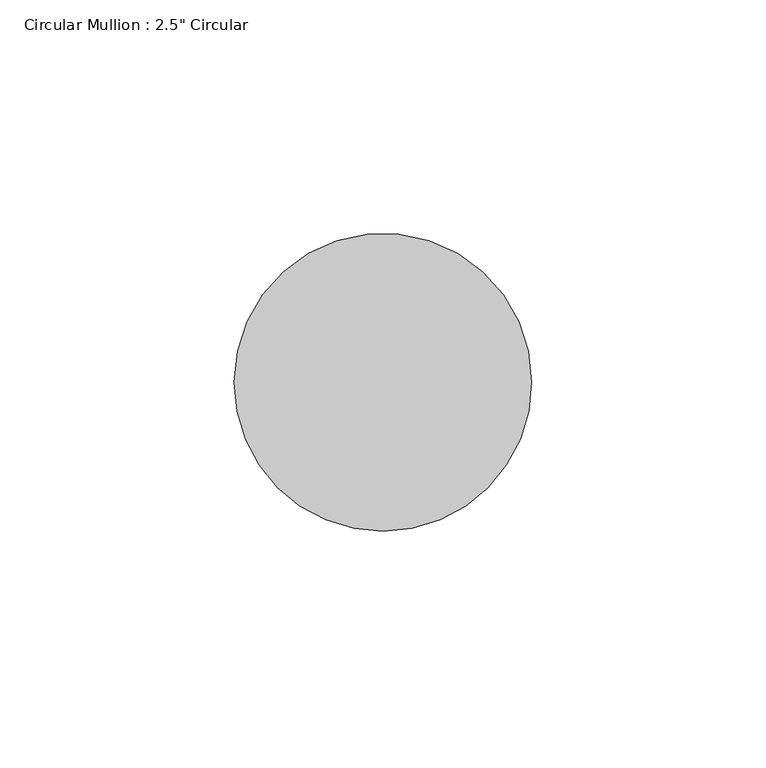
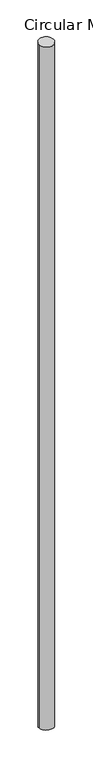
"""IFC4 building model written with IfcOpenShell, lengths in millimetres: member geometry."""

from ifc_helpers import new_model, si_unit, frame, origin, place, context, project, spatial, ellipse_curve, source, transform, mapped, element, save
from ifc_brep_helpers import plane_surface, cylinder_surface, advanced_brep


def member_529cba33(model_context):
    return source(origin(), model_context, "Body", "AdvancedBrep", [
        advanced_brep(
        [(-63.5, 0.0, -1.7863145), (0.0, 0.0, 0.0), (0.0, 0.0, -3120.2233379), (-63.5, 0.0, -3118.0742862)],
        [
            (0, 1, ellipse_curve(frame((-31.75, 0.0, -0.8931573), z_axis=(0.028045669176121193, 0.07257040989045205, -0.9969688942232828), x_axis=(0.35938605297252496, 0.9299401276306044, 0.0778011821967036)), 31.8465302, 31.75)),
            (1, 2),
            (2, 3, ellipse_curve(frame((-31.75, 0.0, -3119.148812), z_axis=(0.03369515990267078, 0.08718891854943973, 0.9956217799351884), x_axis=(-0.35890044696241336, -0.9286835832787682, 0.09347337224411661)), 31.8896198, 31.75)),
            (3, 0),
            (1, 0, ellipse_curve(frame((-31.75, 0.0, -0.8931573), z_axis=(0.028045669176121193, 0.07257040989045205, -0.9969688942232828), x_axis=(0.35938605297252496, 0.9299401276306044, 0.0778011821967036)), 31.8465302, 31.75)),
            (3, 2, ellipse_curve(frame((-31.75, 0.0, -3119.148812), z_axis=(0.03369515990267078, 0.08718891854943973, 0.9956217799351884), x_axis=(-0.35890044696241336, -0.9286835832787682, 0.09347337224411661)), 31.8896198, 31.75)),
        ],
        [
            cylinder_surface(frame((-31.75, 0.0, 0.0), z_axis=(0.0, 0.0, 1.0), x_axis=(1.0, 0.0, 0.0)), 31.75),
            plane_surface(frame((284.3075171, -109.8739084, 0.0), z_axis=(-0.028045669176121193, -0.07257040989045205, 0.9969688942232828), x_axis=(-0.3593860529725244, -0.9299401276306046, -0.07780118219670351))),
            plane_surface(frame((284.3075171, -109.8739084, -3120.2233379), z_axis=(-0.03369515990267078, -0.08718891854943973, -0.9956217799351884), x_axis=(-0.3589004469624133, -0.9286835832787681, 0.09347337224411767))),
        ],
        [
            (0, [[1, 2, 3, 4]]),
            (0, [[5, -4, 6, -2]]),
            (1, [[-1, -5]]),
            (2, [[-6, -3]]),
        ],
    ),
    ])


if __name__ == "__main__":
    model = new_model("IFC4")
    model_context = context("Model", 3, world=origin())
    ifc_project = project(units=[si_unit("LENGTHUNIT", "METRE", prefix="MILLI")], contexts=[model_context])
    site = spatial("IfcSite", under=ifc_project)
    building = spatial("IfcBuilding", under=site)
    placement = place(None, origin())
    member_shape = member_529cba33(model_context)
    element("IfcMember", 1, ObjectType="Circular Mullion : 2.5\" Circular", at=placement, inside=building, context=model_context, shape_type="MappedRepresentation", body=[
        mapped(member_shape, transform((0.0, 0.0, 0.0), x_axis=(1.0, 0.0, 0.0), y_axis=(0.0, 1.0, 0.0), z_axis=(0.0, 0.0, 1.0))),
    ])
    save(model, "model.ifc")
